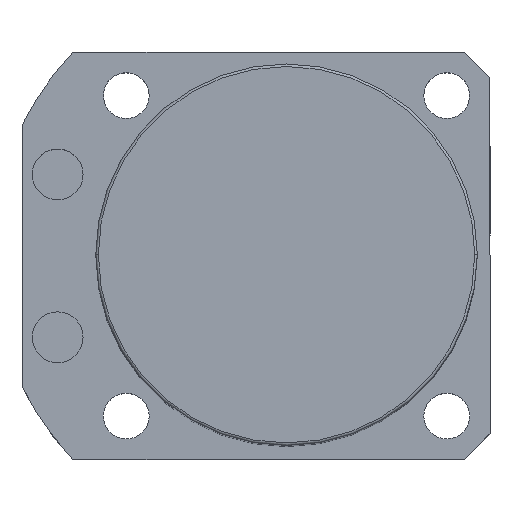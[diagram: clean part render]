
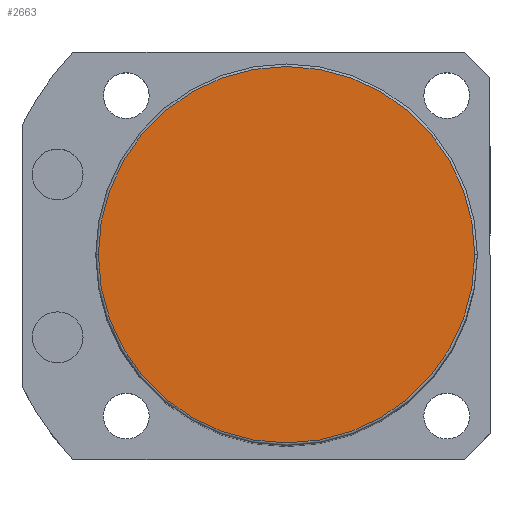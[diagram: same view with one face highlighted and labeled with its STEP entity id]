
A CAD part, top view. The second image highlights one B-rep face of the part: STEP entity #2663.
In plain terms, the highlighted planar face has unit normal (0, 0, 1).
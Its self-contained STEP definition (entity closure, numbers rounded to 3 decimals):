
#239 = DIRECTION ( 'NONE',  ( 1., 0., 0. ) ) ;
#495 = DIRECTION ( 'NONE',  ( 0., 0., 1. ) ) ;
#503 = DIRECTION ( 'NONE',  ( 0., 0., 1. ) ) ;
#677 = CARTESIAN_POINT ( 'NONE',  ( 0., 0., 145.5 ) ) ;
#732 = DIRECTION ( 'NONE',  ( 1., 0., 0. ) ) ;
#1324 = CIRCLE ( 'NONE', #1420, 37. ) ;
#1338 = EDGE_LOOP ( 'NONE', ( #2729, #2862 ) ) ;
#1340 = AXIS2_PLACEMENT_3D ( 'NONE', #2057, #495, #732 ) ;
#1373 = EDGE_CURVE ( 'NONE', #2538, #2322, #2356, .T. ) ;
#1386 = CARTESIAN_POINT ( 'NONE',  ( 0., 0., 145.5 ) ) ;
#1420 = AXIS2_PLACEMENT_3D ( 'NONE', #677, #2654, #239 ) ;
#1532 = FACE_OUTER_BOUND ( 'NONE', #1338, .T. ) ;
#1579 = DIRECTION ( 'NONE',  ( 1., 0., 0. ) ) ;
#2057 = CARTESIAN_POINT ( 'NONE',  ( 0., 0., 145.5 ) ) ;
#2210 = CARTESIAN_POINT ( 'NONE',  ( 37., 0., 145.5 ) ) ;
#2211 = CARTESIAN_POINT ( 'NONE',  ( -37., 0., 145.5 ) ) ;
#2293 = EDGE_CURVE ( 'NONE', #2322, #2538, #1324, .T. ) ;
#2322 = VERTEX_POINT ( 'NONE', #2210 ) ;
#2356 = CIRCLE ( 'NONE', #1340, 37. ) ;
#2400 = AXIS2_PLACEMENT_3D ( 'NONE', #1386, #503, #1579 ) ;
#2538 = VERTEX_POINT ( 'NONE', #2211 ) ;
#2654 = DIRECTION ( 'NONE',  ( 0., 0., 1. ) ) ;
#2663 = ADVANCED_FACE ( 'NONE', ( #1532 ), #2713, .T. ) ;
#2713 = PLANE ( 'NONE',  #2400 ) ;
#2729 = ORIENTED_EDGE ( 'NONE', *, *, #2293, .T. ) ;
#2862 = ORIENTED_EDGE ( 'NONE', *, *, #1373, .T. ) ;
